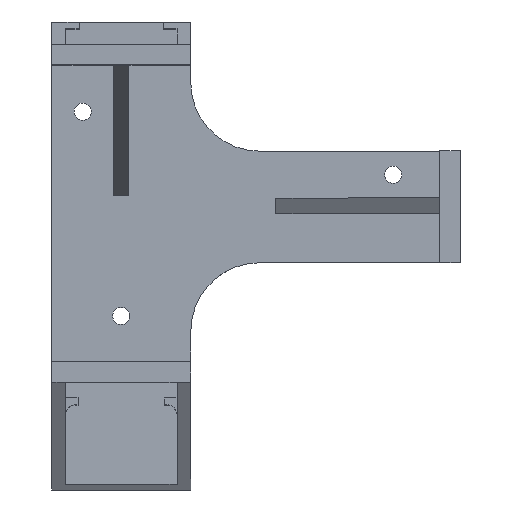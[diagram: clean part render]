
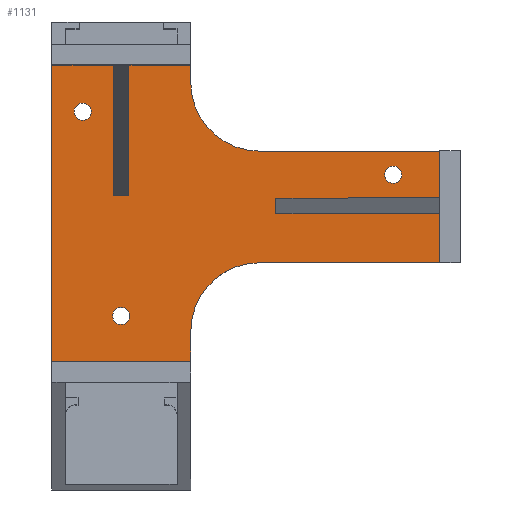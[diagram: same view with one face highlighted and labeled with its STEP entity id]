
A CAD part, top view. The second image highlights one B-rep face of the part: STEP entity #1131.
In plain terms, the highlighted planar face has unit normal (0, 0, 1).
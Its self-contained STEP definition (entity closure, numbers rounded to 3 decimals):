
#16=FACE_BOUND('',#173,.T.);
#17=FACE_BOUND('',#174,.T.);
#18=FACE_BOUND('',#175,.T.);
#19=FACE_BOUND('',#176,.T.);
#58=PLANE('',#1215);
#114=FACE_OUTER_BOUND('',#172,.T.);
#172=EDGE_LOOP('',(#936,#937,#938,#939,#940,#941,#942,#943,#944,#945,#946,
#947,#948,#949));
#173=EDGE_LOOP('',(#950));
#174=EDGE_LOOP('',(#951));
#175=EDGE_LOOP('',(#952));
#176=EDGE_LOOP('',(#953,#954,#955,#956));
#280=LINE('',#1724,#418);
#283=LINE('',#1730,#421);
#286=LINE('',#1736,#424);
#288=LINE('',#1739,#426);
#292=LINE('',#1748,#430);
#294=LINE('',#1752,#432);
#295=LINE('',#1755,#433);
#297=LINE('',#1759,#435);
#298=LINE('',#1761,#436);
#299=LINE('',#1763,#437);
#300=LINE('',#1765,#438);
#301=LINE('',#1769,#439);
#302=LINE('',#1771,#440);
#303=LINE('',#1773,#441);
#304=LINE('',#1777,#442);
#305=LINE('',#1778,#443);
#418=VECTOR('',#1406,10.);
#421=VECTOR('',#1411,10.);
#424=VECTOR('',#1416,10.);
#426=VECTOR('',#1420,10.);
#430=VECTOR('',#1426,10.);
#432=VECTOR('',#1430,10.);
#433=VECTOR('',#1433,10.);
#435=VECTOR('',#1437,10.);
#436=VECTOR('',#1438,10.);
#437=VECTOR('',#1439,10.);
#438=VECTOR('',#1440,10.);
#439=VECTOR('',#1443,10.);
#440=VECTOR('',#1444,10.);
#441=VECTOR('',#1445,10.);
#442=VECTOR('',#1448,10.);
#443=VECTOR('',#1449,10.);
#482=CIRCLE('',#1168,2.5);
#484=CIRCLE('',#1171,2.5);
#486=CIRCLE('',#1174,2.5);
#491=CIRCLE('',#1216,20.);
#492=CIRCLE('',#1217,20.);
#500=VERTEX_POINT('',#1546);
#502=VERTEX_POINT('',#1552);
#504=VERTEX_POINT('',#1558);
#561=VERTEX_POINT('',#1722);
#562=VERTEX_POINT('',#1723);
#564=VERTEX_POINT('',#1729);
#566=VERTEX_POINT('',#1735);
#567=VERTEX_POINT('',#1741);
#570=VERTEX_POINT('',#1746);
#571=VERTEX_POINT('',#1750);
#572=VERTEX_POINT('',#1754);
#573=VERTEX_POINT('',#1758);
#574=VERTEX_POINT('',#1760);
#575=VERTEX_POINT('',#1762);
#576=VERTEX_POINT('',#1764);
#577=VERTEX_POINT('',#1766);
#578=VERTEX_POINT('',#1768);
#579=VERTEX_POINT('',#1770);
#580=VERTEX_POINT('',#1772);
#581=VERTEX_POINT('',#1774);
#582=VERTEX_POINT('',#1776);
#606=EDGE_CURVE('',#500,#500,#482,.T.);
#609=EDGE_CURVE('',#502,#502,#484,.T.);
#612=EDGE_CURVE('',#504,#504,#486,.T.);
#693=EDGE_CURVE('',#561,#562,#280,.T.);
#696=EDGE_CURVE('',#564,#561,#283,.T.);
#699=EDGE_CURVE('',#562,#566,#286,.T.);
#701=EDGE_CURVE('',#566,#564,#288,.T.);
#705=EDGE_CURVE('',#567,#570,#292,.F.);
#707=EDGE_CURVE('',#570,#571,#294,.T.);
#708=EDGE_CURVE('',#572,#567,#295,.T.);
#710=EDGE_CURVE('',#571,#573,#297,.F.);
#711=EDGE_CURVE('',#573,#574,#298,.F.);
#712=EDGE_CURVE('',#575,#574,#299,.F.);
#713=EDGE_CURVE('',#575,#576,#300,.F.);
#714=EDGE_CURVE('',#577,#576,#491,.T.);
#715=EDGE_CURVE('',#577,#578,#301,.F.);
#716=EDGE_CURVE('',#578,#579,#302,.T.);
#717=EDGE_CURVE('',#579,#580,#303,.F.);
#718=EDGE_CURVE('',#581,#580,#492,.T.);
#719=EDGE_CURVE('',#581,#582,#304,.F.);
#720=EDGE_CURVE('',#582,#572,#305,.F.);
#936=ORIENTED_EDGE('',*,*,#708,.T.);
#937=ORIENTED_EDGE('',*,*,#705,.T.);
#938=ORIENTED_EDGE('',*,*,#707,.T.);
#939=ORIENTED_EDGE('',*,*,#710,.T.);
#940=ORIENTED_EDGE('',*,*,#711,.T.);
#941=ORIENTED_EDGE('',*,*,#712,.F.);
#942=ORIENTED_EDGE('',*,*,#713,.T.);
#943=ORIENTED_EDGE('',*,*,#714,.F.);
#944=ORIENTED_EDGE('',*,*,#715,.T.);
#945=ORIENTED_EDGE('',*,*,#716,.T.);
#946=ORIENTED_EDGE('',*,*,#717,.T.);
#947=ORIENTED_EDGE('',*,*,#718,.F.);
#948=ORIENTED_EDGE('',*,*,#719,.T.);
#949=ORIENTED_EDGE('',*,*,#720,.T.);
#950=ORIENTED_EDGE('',*,*,#606,.T.);
#951=ORIENTED_EDGE('',*,*,#609,.T.);
#952=ORIENTED_EDGE('',*,*,#612,.T.);
#953=ORIENTED_EDGE('',*,*,#696,.T.);
#954=ORIENTED_EDGE('',*,*,#693,.T.);
#955=ORIENTED_EDGE('',*,*,#699,.T.);
#956=ORIENTED_EDGE('',*,*,#701,.T.);
#1131=ADVANCED_FACE('',(#114,#16,#17,#18,#19),#58,.F.);
#1168=AXIS2_PLACEMENT_3D('',#1547,#1250,#1251);
#1171=AXIS2_PLACEMENT_3D('',#1553,#1257,#1258);
#1174=AXIS2_PLACEMENT_3D('',#1559,#1264,#1265);
#1215=AXIS2_PLACEMENT_3D('',#1757,#1435,#1436);
#1216=AXIS2_PLACEMENT_3D('',#1767,#1441,#1442);
#1217=AXIS2_PLACEMENT_3D('',#1775,#1446,#1447);
#1250=DIRECTION('center_axis',(0.,0.,
-1.));
#1251=DIRECTION('ref_axis',(-1.,0.,0.));
#1257=DIRECTION('center_axis',(0.,0.,
-1.));
#1258=DIRECTION('ref_axis',(-1.,0.,0.));
#1264=DIRECTION('center_axis',(0.,0.,
-1.));
#1265=DIRECTION('ref_axis',(-1.,0.,0.));
#1406=DIRECTION('',(-1.,0.,0.));
#1411=DIRECTION('',(0.,-1.,0.));
#1416=DIRECTION('',(0.,1.,0.));
#1420=DIRECTION('',(1.,0.,0.));
#1426=DIRECTION('',(1.,0.,0.));
#1430=DIRECTION('',(0.,1.,0.));
#1433=DIRECTION('',(0.,-1.,0.));
#1435=DIRECTION('center_axis',(0.,0.,
-1.));
#1436=DIRECTION('ref_axis',(-1.,0.,0.));
#1437=DIRECTION('',(1.,0.,0.));
#1438=DIRECTION('',(0.,1.,0.));
#1439=DIRECTION('',(1.,0.,0.));
#1440=DIRECTION('',(0.,-1.,0.));
#1441=DIRECTION('center_axis',(0.,0.,
1.));
#1442=DIRECTION('ref_axis',(-0.707,0.707,0.));
#1443=DIRECTION('',(-1.,0.,0.));
#1444=DIRECTION('',(0.,1.,0.));
#1445=DIRECTION('',(1.,0.,0.));
#1446=DIRECTION('center_axis',(0.,0.,
1.));
#1447=DIRECTION('ref_axis',(-0.707,-0.707,0.));
#1448=DIRECTION('',(0.,-1.,0.));
#1449=DIRECTION('',(1.,0.,0.));
#1546=CARTESIAN_POINT('',(-8.75,59.5,-102.5));
#1547=CARTESIAN_POINT('Origin',(-11.25,59.5,-102.5));
#1552=CARTESIAN_POINT('',(2.5,0.,-102.5));
#1553=CARTESIAN_POINT('Origin',(0.,0.,
-102.5));
#1558=CARTESIAN_POINT('',(81.695,41.162,-102.5));
#1559=CARTESIAN_POINT('Origin',(79.195,41.162,-102.5));
#1722=CARTESIAN_POINT('',(92.642,29.824,-102.5));
#1723=CARTESIAN_POINT('',(45.066,29.824,-102.5));
#1724=CARTESIAN_POINT('',(42.403,29.824,-102.5));
#1729=CARTESIAN_POINT('',(92.642,34.324,-102.5));
#1730=CARTESIAN_POINT('',(92.642,39.037,-102.5));
#1735=CARTESIAN_POINT('',(45.066,34.324,-102.5));
#1736=CARTESIAN_POINT('',(45.066,39.037,-102.5));
#1739=CARTESIAN_POINT('',(42.403,34.324,-102.5));
#1741=CARTESIAN_POINT('',(2.25,34.941,-102.5));
#1746=CARTESIAN_POINT('',(-2.25,34.941,-102.5));
#1748=CARTESIAN_POINT('',(-8.125,34.941,-102.5));
#1750=CARTESIAN_POINT('',(-2.25,73.,-102.5));
#1752=CARTESIAN_POINT('',(-2.25,44.047,-102.5));
#1754=CARTESIAN_POINT('',(2.25,73.,-102.5));
#1755=CARTESIAN_POINT('',(2.25,44.047,-102.5));
#1757=CARTESIAN_POINT('Origin',(0.,29.75,-102.5));
#1758=CARTESIAN_POINT('',(-20.25,73.,-102.5));
#1759=CARTESIAN_POINT('',(-20.125,73.,-102.5));
#1760=CARTESIAN_POINT('',(-20.25,-13.5,-102.5));
#1761=CARTESIAN_POINT('',(-20.25,8.125,-102.5));
#1762=CARTESIAN_POINT('',(20.25,-13.5,-102.5));
#1763=CARTESIAN_POINT('',(0.,-13.5,-102.5));
#1764=CARTESIAN_POINT('',(20.25,-4.5,-102.5));
#1765=CARTESIAN_POINT('',(20.25,8.125,-102.5));
#1766=CARTESIAN_POINT('',(40.25,15.5,-102.5));
#1767=CARTESIAN_POINT('Origin',(40.25,-4.5,-102.5));
#1768=CARTESIAN_POINT('',(92.75,15.5,-102.5));
#1769=CARTESIAN_POINT('',(48.875,15.5,-102.5));
#1770=CARTESIAN_POINT('',(92.75,48.,-102.5));
#1771=CARTESIAN_POINT('',(92.75,30.75,-102.5));
#1772=CARTESIAN_POINT('',(40.25,48.,-102.5));
#1773=CARTESIAN_POINT('',(48.875,48.,-102.5));
#1774=CARTESIAN_POINT('',(20.25,68.,-102.5));
#1775=CARTESIAN_POINT('Origin',(40.25,68.,-102.5));
#1776=CARTESIAN_POINT('',(20.25,73.,-102.5));
#1777=CARTESIAN_POINT('',(20.25,8.125,-102.5));
#1778=CARTESIAN_POINT('',(-20.125,73.,-102.5));
